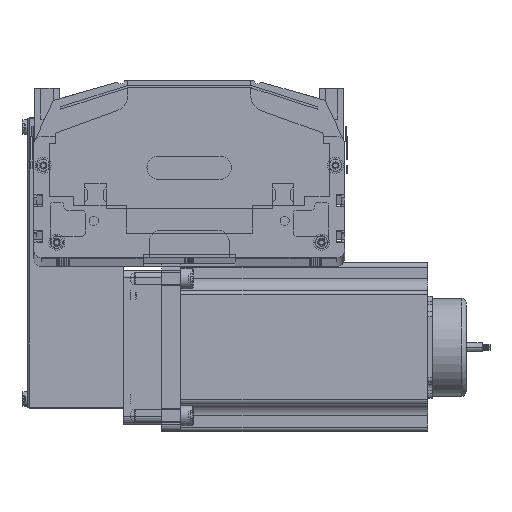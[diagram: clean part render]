
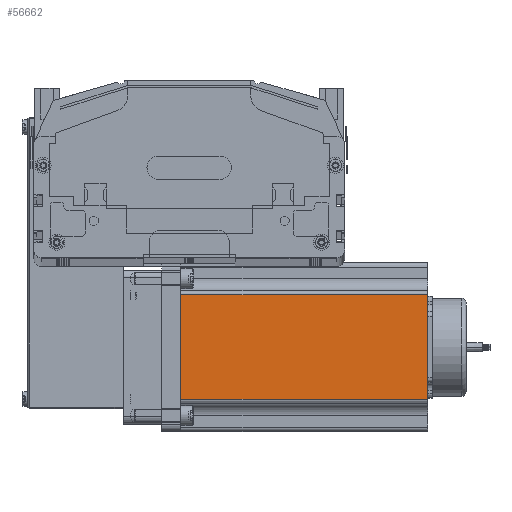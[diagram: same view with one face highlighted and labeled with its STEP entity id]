
A CAD part, top view. The second image highlights one B-rep face of the part: STEP entity #56662.
In plain terms, the highlighted planar face has unit normal (0, 0, 1) as drawn and (0, -1, 0) by its records, which use the part's own axes.
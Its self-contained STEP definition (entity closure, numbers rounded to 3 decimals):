
#56592 = EDGE_CURVE ( 'NONE', #56649, #56667, #88749, .T. ) ;
#56593 = EDGE_CURVE ( 'NONE', #56649, #56594, #88740, .T. ) ;
#56594 = VERTEX_POINT ( 'NONE', #88751 ) ;
#56597 = EDGE_CURVE ( 'NONE', #56667, #56663, #88734, .T. ) ;
#56599 = EDGE_LOOP ( 'NONE', ( #56697, #56664, #56660, #56675 ) ) ;
#56630 = EDGE_CURVE ( 'NONE', #56663, #56594, #88851, .T. ) ;
#56649 = VERTEX_POINT ( 'NONE', #88913 ) ;
#56660 = ORIENTED_EDGE ( 'NONE', *, *, #56593, .F. ) ;
#56662 = ADVANCED_FACE ( 'NONE', ( #88997 ), #88985, .F. ) ;
#56663 = VERTEX_POINT ( 'NONE', #88964 ) ;
#56664 = ORIENTED_EDGE ( 'NONE', *, *, #56630, .T. ) ;
#56667 = VERTEX_POINT ( 'NONE', #88966 ) ;
#56675 = ORIENTED_EDGE ( 'NONE', *, *, #56592, .T. ) ;
#56697 = ORIENTED_EDGE ( 'NONE', *, *, #56597, .T. ) ;
#88690 = CARTESIAN_POINT ( 'NONE',  ( 21.048, 0., 160.5 ) ) ;
#88731 = CARTESIAN_POINT ( 'NONE',  ( 0., 0., 0. ) ) ;
#88734 = LINE ( 'NONE', #88731, #88783 ) ;
#88737 = DIRECTION ( 'NONE',  ( 1., 0., 0. ) ) ;
#88738 = VECTOR ( 'NONE', #88737, 1000. ) ;
#88739 = CARTESIAN_POINT ( 'NONE',  ( 0., 0., 160.5 ) ) ;
#88740 = LINE ( 'NONE', #88739, #88738 ) ;
#88743 = DIRECTION ( 'NONE',  ( 0., 0., -1. ) ) ;
#88744 = VECTOR ( 'NONE', #88743, 1000. ) ;
#88749 = LINE ( 'NONE', #88690, #88744 ) ;
#88751 = CARTESIAN_POINT ( 'NONE',  ( 88.952, 0., 160.5 ) ) ;
#88782 = DIRECTION ( 'NONE',  ( 1., 0., 0. ) ) ;
#88783 = VECTOR ( 'NONE', #88782, 1000. ) ;
#88830 = DIRECTION ( 'NONE',  ( 0., 0., 1. ) ) ;
#88831 = VECTOR ( 'NONE', #88830, 1000. ) ;
#88850 = CARTESIAN_POINT ( 'NONE',  ( 88.952, 0., 160.5 ) ) ;
#88851 = LINE ( 'NONE', #88850, #88831 ) ;
#88913 = CARTESIAN_POINT ( 'NONE',  ( 21.048, 0., 160.5 ) ) ;
#88964 = CARTESIAN_POINT ( 'NONE',  ( 88.952, 0., 0. ) ) ;
#88966 = CARTESIAN_POINT ( 'NONE',  ( 21.048, 0., 0. ) ) ;
#88985 = PLANE ( 'NONE',  #88998 ) ;
#88997 = FACE_OUTER_BOUND ( 'NONE', #56599, .T. ) ;
#88998 = AXIS2_PLACEMENT_3D ( 'NONE', #89120, #89119, #89117 ) ;
#89117 = DIRECTION ( 'NONE',  ( 0., 0., 1. ) ) ;
#89119 = DIRECTION ( 'NONE',  ( 0., 1., 0. ) ) ;
#89120 = CARTESIAN_POINT ( 'NONE',  ( 0., 0., 160.5 ) ) ;
